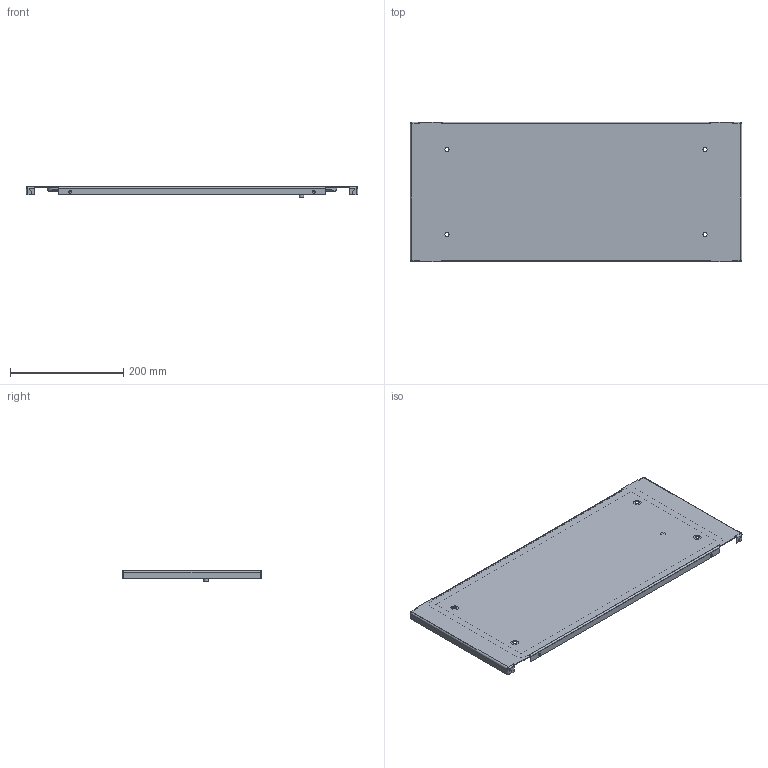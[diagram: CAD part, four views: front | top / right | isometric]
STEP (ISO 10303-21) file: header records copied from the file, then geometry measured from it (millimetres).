
FILE_DESCRIPTION(('STEP AP203'), '1');
FILE_NAME('Ïàíåëü ëèöåâàÿ ãëóõàÿ 250õ600 ìì OptiBox M 419477 ÊÝÀÇ', '', ('UNSPECIFIED'), ('UNSPECIFIED'), 'C3D Converter', 'C3D Toolkit', '');
FILE_SCHEMA(('CONFIG_CONTROL_DESIGN'));
Length unit declared in the file: millimetre
Bounding box: 586.4 x 247 x 18.9 mm (x, y, z)
Volume: 329037.3 mm3; surface area: 374962.3 mm2
Topology: 3 solids, 3 shells, 168 faces, 385 edges, 230 vertices
Faces by surface type: plane 109, cylinder 51, bspline 8
Full cylindrical faces by diameter (mm): 0.75 x1, 1 x1, 5 x2, 7.3 x4, 8 x1, 9.3 x1, 13 x1, 13.5 x4
Entity records: 7012 total; most frequent: CARTESIAN_POINT 2005, ORIENTED_EDGE 740, DIRECTION 726, EDGE_CURVE 370, LINE 264, VECTOR 264, AXIS2_PLACEMENT_3D 231, VERTEX_POINT 230
